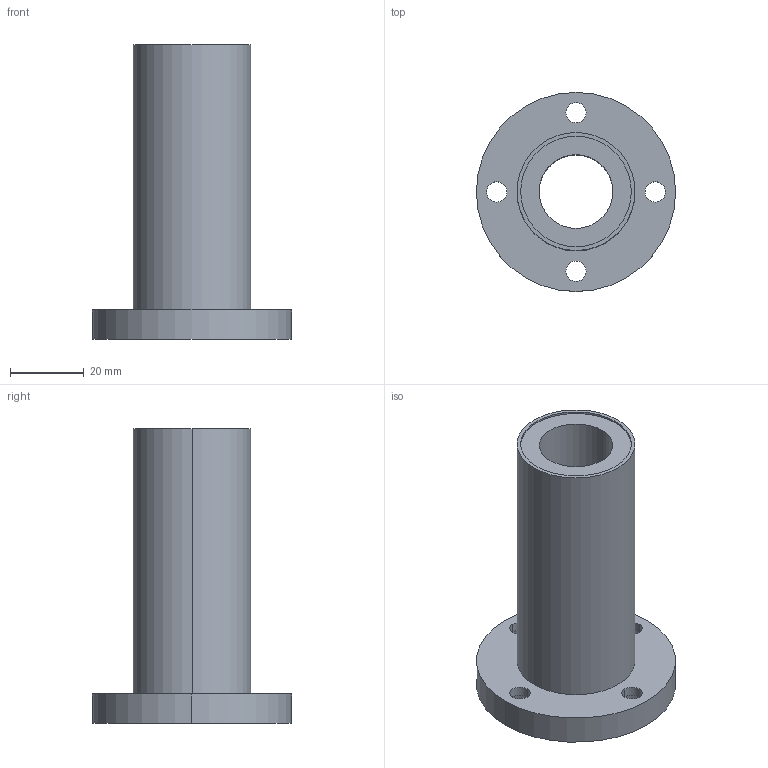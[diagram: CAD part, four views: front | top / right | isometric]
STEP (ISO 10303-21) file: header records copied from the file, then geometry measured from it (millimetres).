
FILE_DESCRIPTION((''),'2;1');
FILE_NAME('C:\Documents and Settings\ｿﾀﾀ蠑ｷ1\ｹﾙﾅﾁ ﾈｭｸ饅\ｺﾎﾇｰﾆﾄﾀﾏ\ﾁｦﾇｰ\LMF__LUU\LMF20LUU.stp','2005-06-15T09:42:48',('ｿﾀﾀ蠑ｷ1'),(''),'Autodesk Inventor 9','Autodesk Inventor 9','');
FILE_SCHEMA(('AUTOMOTIVE_DESIGN { 1 0 10303 214 1 1 1 1 }'));
Length unit declared in the file: millimetre
Products named in the file (1): LMF__
Bounding box: 54 x 54 x 80 mm (x, y, z)
Volume: 48855.5 mm3; surface area: 18244.8 mm2
Topology: 1 solids, 1 shells, 38 faces, 84 edges, 56 vertices
Faces by surface type: cylinder 28, plane 10
Entity records: 1127 total; most frequent: DIRECTION 218, CARTESIAN_POINT 179, ORIENTED_EDGE 168, AXIS2_PLACEMENT_3D 95, EDGE_CURVE 84, VERTEX_POINT 56, CIRCLE 56, EDGE_LOOP 56
